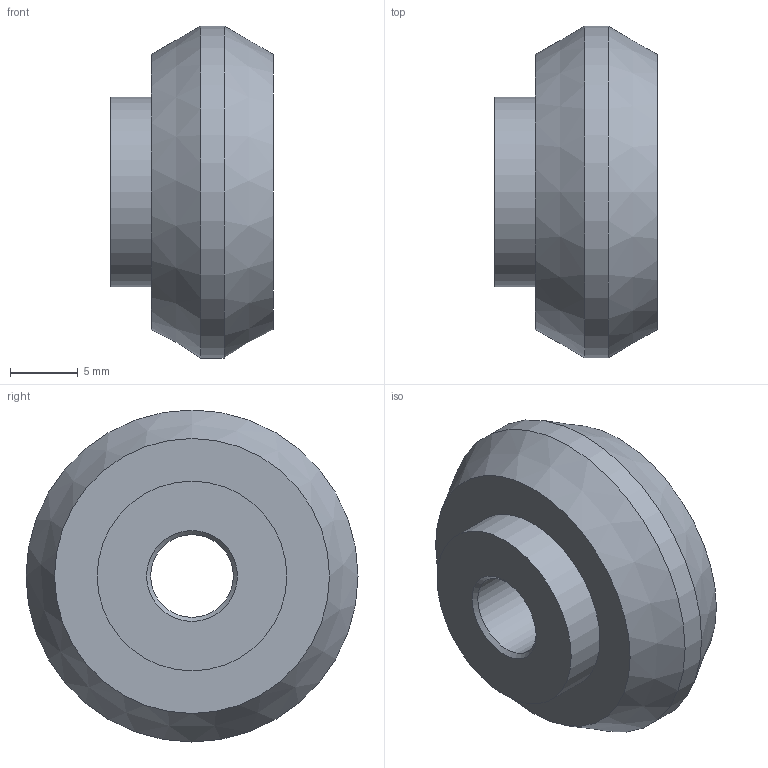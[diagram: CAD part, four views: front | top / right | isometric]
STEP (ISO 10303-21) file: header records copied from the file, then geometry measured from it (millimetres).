
FILE_DESCRIPTION (( 'STEP AP214' ), '1' );
FILE_NAME ('L16201.step', '2024-12-03T16:21:26', ( '' ), ( '' ), 'SwSTEP 2.0', 'SolidWorks 2023', '' );
FILE_SCHEMA (( 'AUTOMOTIVE_DESIGN' ));
Length unit declared in the file: millimetre
Products named in the file (1): L16201
Bounding box: 12 x 24.5 x 24.5 mm (x, y, z)
Volume: 3487.4 mm3; surface area: 1733.2 mm2
Topology: 1 solids, 1 shells, 12 faces, 21 edges, 13 vertices
Faces by surface type: plane 4, cylinder 4, cone 4
Full cylindrical faces by diameter (mm): 6.1 x1, 13 x1, 14 x1, 24.5 x1
Entity records: 271 total; most frequent: DIRECTION 50, CARTESIAN_POINT 37, AXIS2_PLACEMENT_3D 25, ORIENTED_EDGE 24, EDGE_LOOP 24, FACE_OUTER_BOUND 16, EDGE_CURVE 12, ADVANCED_FACE 12
